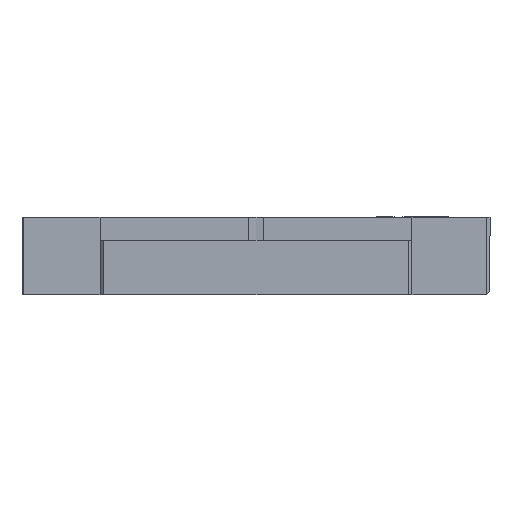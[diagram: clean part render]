
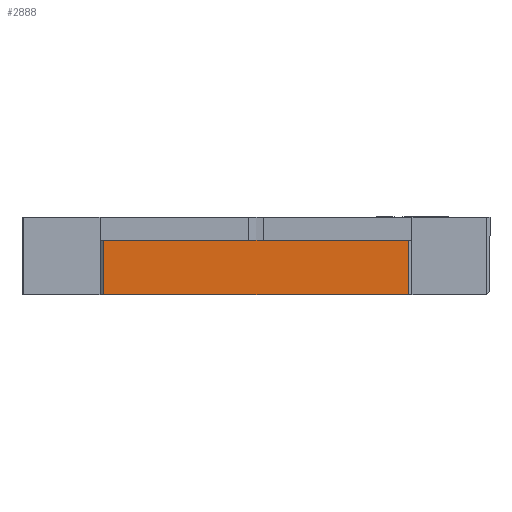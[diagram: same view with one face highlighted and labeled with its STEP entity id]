
A CAD part, front view. The second image highlights one B-rep face of the part: STEP entity #2888.
In plain terms, the highlighted planar face has unit normal (0, -1, 0).
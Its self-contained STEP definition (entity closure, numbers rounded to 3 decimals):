
#277 = CARTESIAN_POINT ( 'NONE',  ( -20., -20., 0. ) ) ;
#294 = DIRECTION ( 'NONE',  ( 1., 0., 0. ) ) ;
#339 = DIRECTION ( 'NONE',  ( 0., 0., -1. ) ) ;
#346 = CARTESIAN_POINT ( 'NONE',  ( -19.5, -20., 10. ) ) ;
#673 = CARTESIAN_POINT ( 'NONE',  ( 19.5, -20., 10. ) ) ;
#674 = DIRECTION ( 'NONE',  ( 0., 0., 1. ) ) ;
#712 = DIRECTION ( 'NONE',  ( -1., 0., 0. ) ) ;
#721 = CARTESIAN_POINT ( 'NONE',  ( -20., -20., 7. ) ) ;
#1027 = FACE_OUTER_BOUND ( 'NONE', #1170, .T. ) ;
#1170 = EDGE_LOOP ( 'NONE', ( #1994, #1984, #2003, #1982 ) ) ;
#1439 = VERTEX_POINT ( 'NONE', #4417 ) ;
#1473 = VERTEX_POINT ( 'NONE', #4396 ) ;
#1490 = VERTEX_POINT ( 'NONE', #4423 ) ;
#1537 = VERTEX_POINT ( 'NONE', #4007 ) ;
#1612 = LINE ( 'NONE', #277, #1691 ) ;
#1691 = VECTOR ( 'NONE', #294, 1000. ) ;
#1765 = VECTOR ( 'NONE', #339, 1000. ) ;
#1804 = LINE ( 'NONE', #346, #1765 ) ;
#1886 = LINE ( 'NONE', #673, #1962 ) ;
#1956 = LINE ( 'NONE', #721, #1959 ) ;
#1959 = VECTOR ( 'NONE', #712, 1000. ) ;
#1962 = VECTOR ( 'NONE', #674, 1000. ) ;
#1982 = ORIENTED_EDGE ( 'NONE', *, *, #2629, .T. ) ;
#1984 = ORIENTED_EDGE ( 'NONE', *, *, #2713, .T. ) ;
#1994 = ORIENTED_EDGE ( 'NONE', *, *, #2602, .T. ) ;
#2003 = ORIENTED_EDGE ( 'NONE', *, *, #2720, .T. ) ;
#2602 = EDGE_CURVE ( 'NONE', #1490, #1439, #1612, .T. ) ;
#2629 = EDGE_CURVE ( 'NONE', #1473, #1490, #1804, .T. ) ;
#2713 = EDGE_CURVE ( 'NONE', #1439, #1537, #1886, .T. ) ;
#2720 = EDGE_CURVE ( 'NONE', #1537, #1473, #1956, .T. ) ;
#2888 = ADVANCED_FACE ( 'NONE', ( #1027 ), #3778, .F. ) ;
#2914 = AXIS2_PLACEMENT_3D ( 'NONE', #3731, #3733, #3736 ) ;
#3731 = CARTESIAN_POINT ( 'NONE',  ( -20., -20., 10. ) ) ;
#3733 = DIRECTION ( 'NONE',  ( 0., 1., 0. ) ) ;
#3736 = DIRECTION ( 'NONE',  ( 0., 0., 1. ) ) ;
#3778 = PLANE ( 'NONE',  #2914 ) ;
#4007 = CARTESIAN_POINT ( 'NONE',  ( 19.5, -20., 7. ) ) ;
#4396 = CARTESIAN_POINT ( 'NONE',  ( -19.5, -20., 7. ) ) ;
#4417 = CARTESIAN_POINT ( 'NONE',  ( 19.5, -20., 0. ) ) ;
#4423 = CARTESIAN_POINT ( 'NONE',  ( -19.5, -20., 0. ) ) ;
